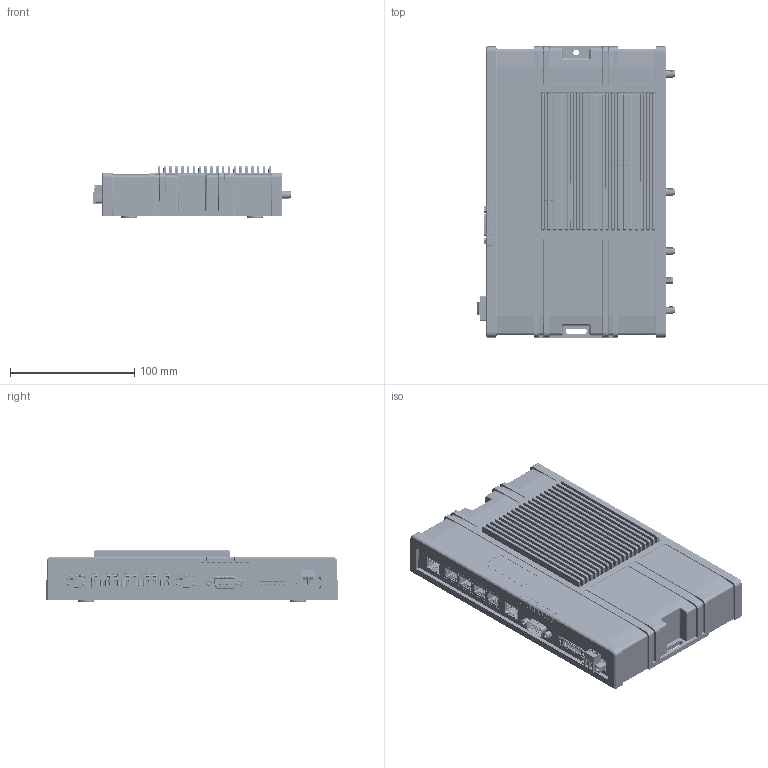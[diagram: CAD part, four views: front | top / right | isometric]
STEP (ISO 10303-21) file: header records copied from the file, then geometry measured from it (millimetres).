
FILE_DESCRIPTION(('Open CASCADE Model'),'2;1');
FILE_NAME('Open CASCADE Shape Model','2024-02-13T16:41:23',('Author'),( 'Open CASCADE'),'Open CASCADE STEP processor 7.5','Open CASCADE 7.5' ,'Unknown');
FILE_SCHEMA(('AUTOMOTIVE_DESIGN { 1 0 10303 214 1 1 1 1 }'));
Length unit declared in the file: millimetre
Products named in the file (95): Open CASCADE STEP translator 7.5 1; Open CASCADE STEP translator 7.5 2; Open CASCADE STEP translator 7.5 3; Open CASCADE STEP translator 7.5 4; Open CASCADE STEP translator 7.5 5; Open CASCADE STEP translator 7.5 6; Open CASCADE STEP translator 7.5 7; Open CASCADE STEP translator 7.5 8; Open CASCADE STEP translator 7.5 9; Open CASCADE STEP translator 7.5 10; Open CASCADE STEP translator 7.5 11; Open CASCADE STEP translator 7.5 12; Open CASCADE STEP translator 7.5 13; Open CASCADE STEP translator 7.5 14; Open CASCADE STEP translator 7.5 15; Open CASCADE STEP translator 7.5 16; Open CASCADE STEP translator 7.5 17; Open CASCADE STEP translator 7.5 18; Open CASCADE STEP translator 7.5 19; Open CASCADE STEP translator 7.5 20; Open CASCADE STEP translator 7.5 21; Open CASCADE STEP translator 7.5 22; Open CASCADE STEP translator 7.5 23; Open CASCADE STEP translator 7.5 24; Open CASCADE STEP translator 7.5 25; Open CASCADE STEP translator 7.5 26; Open CASCADE STEP translator 7.5 27; Open CASCADE STEP translator 7.5 28; Open CASCADE STEP translator 7.5 29; Open CASCADE STEP translator 7.5 30; Open CASCADE STEP translator 7.5 31; Open CASCADE STEP translator 7.5 32; Open CASCADE STEP translator 7.5 33; Open CASCADE STEP translator 7.5 34; Open CASCADE STEP translator 7.5 35; Open CASCADE STEP translator 7.5 36; Open CASCADE STEP translator 7.5 37; Open CASCADE STEP translator 7.5 38; Open CASCADE STEP translator 7.5 39; Open CASCADE STEP translator 7.5 40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
Bounding box: 158.45 x 234.2 x 41.3 mm (x, y, z)
Volume: 494597.2 mm3; surface area: 451682.4 mm2
Topology: 130 solids, 131 shells, 21566 faces, 58185 edges, 37033 vertices
Faces by surface type: plane 11638, cylinder 6225, cone 1756, bspline 1427, sphere 381, torus 123, revolution 16
Entity records: 928156 total; most frequent: CARTESIAN_POINT 387649, ORIENTED_EDGE 116140, DIRECTION 102244, EDGE_CURVE 58070, VERTEX_POINT 37033, LINE 36996, VECTOR 36996, AXIS2_PLACEMENT_3D 32616
